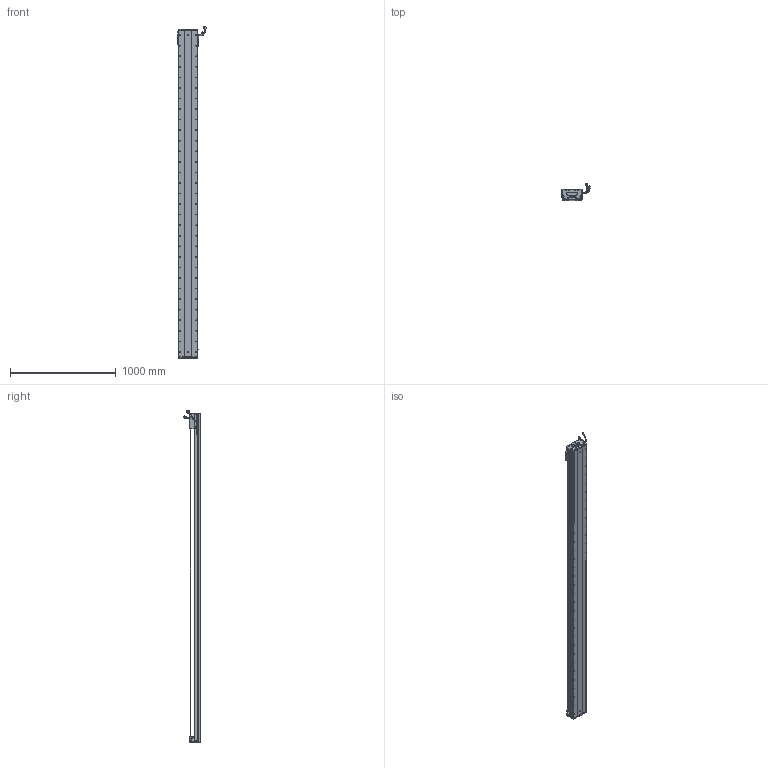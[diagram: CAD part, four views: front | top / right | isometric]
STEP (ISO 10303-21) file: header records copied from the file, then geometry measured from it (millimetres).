
FILE_DESCRIPTION (( 'STEP AP203' ), '1' );
FILE_NAME ('Z1-RY170D-1-L500-B-K.SLDASM_2900.step', '2021-05-17T08:57:15', ( '盈信电脑' ), ( '东莞市道滘镇水果街19号' ), 'SwSTEP 2.0', 'SolidWorks 2016', '' );
FILE_SCHEMA (( 'CONFIG_CONTROL_DESIGN' ));
Length unit declared in the file: millimetre
Products named in the file (36): RY170直线电机感应器672光电感应片; COVER-Part-1; Z1-RY170-L500耀郪菁釱_2900; SHIELDPLATE; 140蚥薯蝶輸; 080黍杅芛假蚾釱21遴; HOLDER0; COVER; 140雄赽晤鎢ん堤盄; 榋妏寠巭燃_暯_M2_2; 170-Z-臏賑輸盄裔(21遴); HARNESS-Part-2; SCREW-M1.7; SEAL; LABEL-Part-1; Z1-RY170-L500詩湍145mm遵_2900; HARNESS; Z1-RY170D-1-L500-B-K.SLDASM_2900; SCREW-M1.6; SCALE-Part-1; SCREW-M1.6-2; PSLH080_PSLF2; SCALE; SCREW-M1.6-3; Z1-RY170臏賑輸(21遴); SCREW-M1.7-1; PBU_SHEET; Z-170詩湍傷裔啣; Z-RY170詩湍奻揤裔; HARNESS-Part-1; Z-RY170詩湍狟揤裔; SEAL-Part-1; 覜茼ん672; LABEL; SCALE-Part-2; SCREW-M1.6-1
Assembly tree (41 placements, depth 4):
  Z1-RY170D-1-L500-B-K.SLDASM_2900
    Z1-RY170-L500耀郪菁釱_2900
    RY170直线电机感应器672光电感应片
    Z1-RY170臏賑輸(21遴)
    覜茼ん672  x3
    PSLH080_PSLF2
      SCALE
        SCALE-Part-1
        SCALE-Part-2
      HARNESS
        HARNESS-Part-1
        HARNESS-Part-2
      LABEL
        LABEL-Part-1
      COVER
        COVER-Part-1
      SEAL
        SEAL-Part-1
      榋妏寠巭燃_暯_M2_2
      SHIELDPLATE
      SCREW-M1.7
      SCREW-M1.7-1
      PBU_SHEET
      SCREW-M1.6
      SCREW-M1.6-1
      SCREW-M1.6-2
      SCREW-M1.6-3
      HOLDER0
    080黍杅芛假蚾釱21遴
    Z1-RY170-L500詩湍145mm遵_2900
    Z-170詩湍傷裔啣  x2
    Z-RY170詩湍奻揤裔  x2
    Z-RY170詩湍狟揤裔  x2
    140蚥薯蝶輸  x2
    170-Z-臏賑輸盄裔(21遴)
    140雄赽晤鎢ん堤盄
Bounding box: 275.29 x 158.11 x 3143.72 mm (x, y, z)
Volume: 14819648 mm3; surface area: 3712189.9 mm2
Topology: 36 solids, 36 shells, 4324 faces, 12123 edges, 7565 vertices
Faces by surface type: cylinder 2234, plane 1348, cone 620, torus 69, bspline 53
Entity records: 138815 total; most frequent: CARTESIAN_POINT 39986, ORIENTED_EDGE 20578, DIRECTION 18809, EDGE_CURVE 10289, AXIS2_PLACEMENT_3D 6926, VERTEX_POINT 6683, LINE 4957, VECTOR 4957
